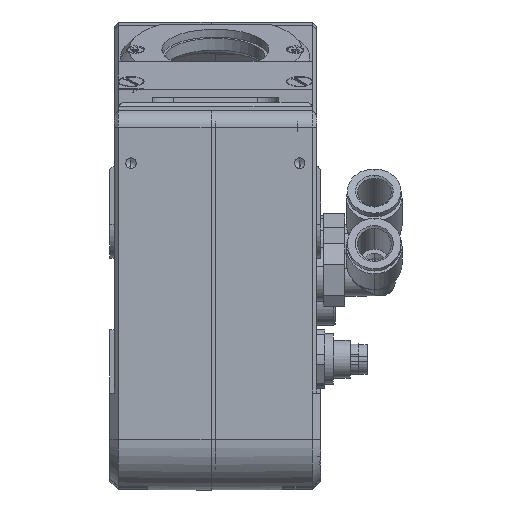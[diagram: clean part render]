
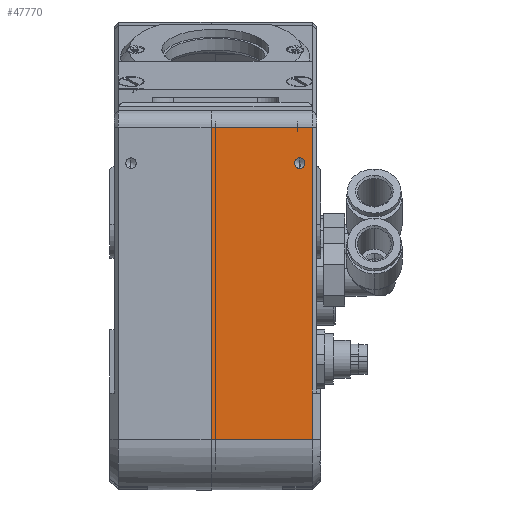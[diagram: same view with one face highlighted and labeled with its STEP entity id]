
A CAD part, front view. The second image highlights one B-rep face of the part: STEP entity #47770.
In plain terms, the highlighted planar face has unit normal (0, -1, 0) as drawn and (0, 0, -1) by its records, which use the part's own axes.
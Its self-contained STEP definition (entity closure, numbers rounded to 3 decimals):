
#272 = VERTEX_POINT ( 'NONE', #42744 ) ;
#295 = VERTEX_POINT ( 'NONE', #42631 ) ;
#308 = VERTEX_POINT ( 'NONE', #42644 ) ;
#310 = VERTEX_POINT ( 'NONE', #42647 ) ;
#312 = VERTEX_POINT ( 'NONE', #42625 ) ;
#1296 = AXIS2_PLACEMENT_3D ( 'NONE', #5352, #5402, #5593 ) ;
#5352 = CARTESIAN_POINT ( 'NONE',  ( -0.5, 20., -183.565 ) ) ;
#5402 = DIRECTION ( 'NONE',  ( 0., 0., -1. ) ) ;
#5593 = DIRECTION ( 'NONE',  ( -1., 0., 0. ) ) ;
#7770 = CARTESIAN_POINT ( 'NONE',  ( -66., 23., -183.565 ) ) ;
#7774 = CARTESIAN_POINT ( 'NONE',  ( -66., 24., -183.565 ) ) ;
#7782 = DIRECTION ( 'NONE',  ( 0., -1., 0. ) ) ;
#7783 = DIRECTION ( 'NONE',  ( 0., -1., 0. ) ) ;
#7784 = DIRECTION ( 'NONE',  ( 1., 0., 0. ) ) ;
#7785 = DIRECTION ( 'NONE',  ( 1., 0., 0. ) ) ;
#7787 = CARTESIAN_POINT ( 'NONE',  ( -66., 23., -183.565 ) ) ;
#7791 = CARTESIAN_POINT ( 'NONE',  ( 8., 24., -183.565 ) ) ;
#7793 = DIRECTION ( 'NONE',  ( 1., 0., 0. ) ) ;
#7794 = CARTESIAN_POINT ( 'NONE',  ( 8., -1., -183.565 ) ) ;
#7802 = CARTESIAN_POINT ( 'NONE',  ( -0.5, 20., -183.565 ) ) ;
#7803 = DIRECTION ( 'NONE',  ( 0., 0., -1. ) ) ;
#7804 = DIRECTION ( 'NONE',  ( -1., 0., 0. ) ) ;
#8196 = LINE ( 'NONE', #7770, #8202 ) ;
#8197 = LINE ( 'NONE', #7774, #8200 ) ;
#8200 = VECTOR ( 'NONE', #7783, 1000. ) ;
#8202 = VECTOR ( 'NONE', #7784, 1000. ) ;
#8203 = LINE ( 'NONE', #7787, #8205 ) ;
#8204 = LINE ( 'NONE', #7791, #8209 ) ;
#8205 = VECTOR ( 'NONE', #7785, 1000. ) ;
#8209 = VECTOR ( 'NONE', #7782, 1000. ) ;
#8210 = LINE ( 'NONE', #7794, #8212 ) ;
#8211 = CIRCLE ( 'NONE', #34927, 1.25 ) ;
#8212 = VECTOR ( 'NONE', #7793, 1000. ) ;
#10414 = VERTEX_POINT ( 'NONE', #14862 ) ;
#10432 = VERTEX_POINT ( 'NONE', #14825 ) ;
#12905 = ORIENTED_EDGE ( 'NONE', *, *, #49373, .T. ) ;
#12906 = ORIENTED_EDGE ( 'NONE', *, *, #49387, .F. ) ;
#12907 = ORIENTED_EDGE ( 'NONE', *, *, #49380, .F. ) ;
#12976 = ORIENTED_EDGE ( 'NONE', *, *, #14594, .F. ) ;
#13062 = ORIENTED_EDGE ( 'NONE', *, *, #49360, .T. ) ;
#13063 = ORIENTED_EDGE ( 'NONE', *, *, #49357, .F. ) ;
#13079 = ORIENTED_EDGE ( 'NONE', *, *, #49367, .T. ) ;
#14594 = EDGE_CURVE ( 'NONE', #10432, #10414, #17022, .T. ) ;
#14825 = CARTESIAN_POINT ( 'NONE',  ( 0.75, 20., -183.565 ) ) ;
#14862 = CARTESIAN_POINT ( 'NONE',  ( -1.75, 20., -183.565 ) ) ;
#17022 = CIRCLE ( 'NONE', #1296, 1.25 ) ;
#26470 = FACE_OUTER_BOUND ( 'NONE', #49200, .T. ) ;
#26476 = FACE_BOUND ( 'NONE', #49181, .T. ) ;
#28021 = PLANE ( 'NONE',  #34426 ) ;
#28023 = CARTESIAN_POINT ( 'NONE',  ( -66., 24., -183.565 ) ) ;
#28029 = DIRECTION ( 'NONE',  ( 0., 0., 1. ) ) ;
#28030 = DIRECTION ( 'NONE',  ( 1., 0., 0. ) ) ;
#34426 = AXIS2_PLACEMENT_3D ( 'NONE', #28023, #28029, #28030 ) ;
#34927 = AXIS2_PLACEMENT_3D ( 'NONE', #7802, #7803, #7804 ) ;
#42625 = CARTESIAN_POINT ( 'NONE',  ( 8., -1., -183.565 ) ) ;
#42631 = CARTESIAN_POINT ( 'NONE',  ( -66., -1., -183.565 ) ) ;
#42644 = CARTESIAN_POINT ( 'NONE',  ( -55., 23., -183.565 ) ) ;
#42647 = CARTESIAN_POINT ( 'NONE',  ( 8., 23., -183.565 ) ) ;
#42744 = CARTESIAN_POINT ( 'NONE',  ( -66., 23., -183.565 ) ) ;
#47770 = ADVANCED_FACE ( 'NONE', ( #26470, #26476 ), #28021, .F. ) ;
#49181 = EDGE_LOOP ( 'NONE', ( #12906, #12976 ) ) ;
#49200 = EDGE_LOOP ( 'NONE', ( #13063, #13062, #13079, #12905, #12907 ) ) ;
#49357 = EDGE_CURVE ( 'NONE', #272, #295, #8197, .T. ) ;
#49360 = EDGE_CURVE ( 'NONE', #272, #308, #8196, .T. ) ;
#49367 = EDGE_CURVE ( 'NONE', #308, #310, #8203, .T. ) ;
#49373 = EDGE_CURVE ( 'NONE', #310, #312, #8204, .T. ) ;
#49380 = EDGE_CURVE ( 'NONE', #295, #312, #8210, .T. ) ;
#49387 = EDGE_CURVE ( 'NONE', #10414, #10432, #8211, .T. ) ;
